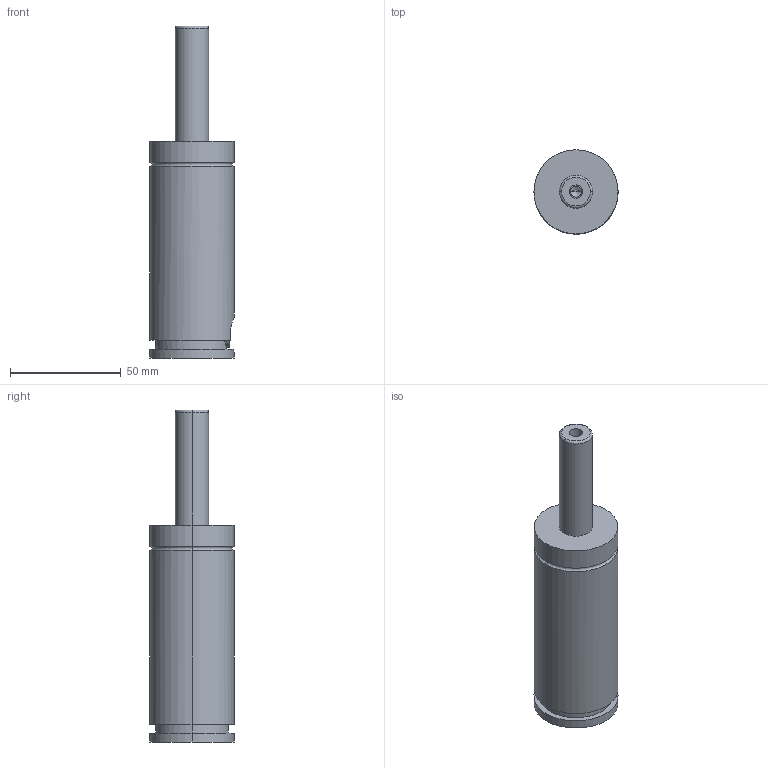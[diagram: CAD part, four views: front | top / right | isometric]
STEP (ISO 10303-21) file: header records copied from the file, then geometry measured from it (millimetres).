
FILE_DESCRIPTION(/* description */ (''),/* implementation_level */ '2;1');
FILE_NAME(/* name */ '3d_gse38-50_03881_r00.stp',/* time_stamp */ '2011-01-10T14:15:19+09:00',/* author */ ('MISUMI'),/* organization */ (''),/* preprocessor_version */ 'ST-DEVELOPER v11',/* originating_system */ 'UGS - NX 5.0',/* authorisation */ '');
FILE_SCHEMA (('CONFIG_CONTROL_DESIGN'));
Length unit declared in the file: millimetre
Products named in the file (1): 3d_gse38-50_03881_r00
Bounding box: 38 x 38 x 150 mm (x, y, z)
Volume: 117261.2 mm3; surface area: 18127.5 mm2
Topology: 1 solids, 1 shells, 57 faces, 125 edges, 79 vertices
Faces by surface type: cylinder 26, plane 21, cone 6, torus 4
Entity records: 1669 total; most frequent: DIRECTION 297, CARTESIAN_POINT 286, ORIENTED_EDGE 246, EDGE_CURVE 123, AXIS2_PLACEMENT_3D 122, VERTEX_POINT 79, EDGE_LOOP 68, CIRCLE 64
